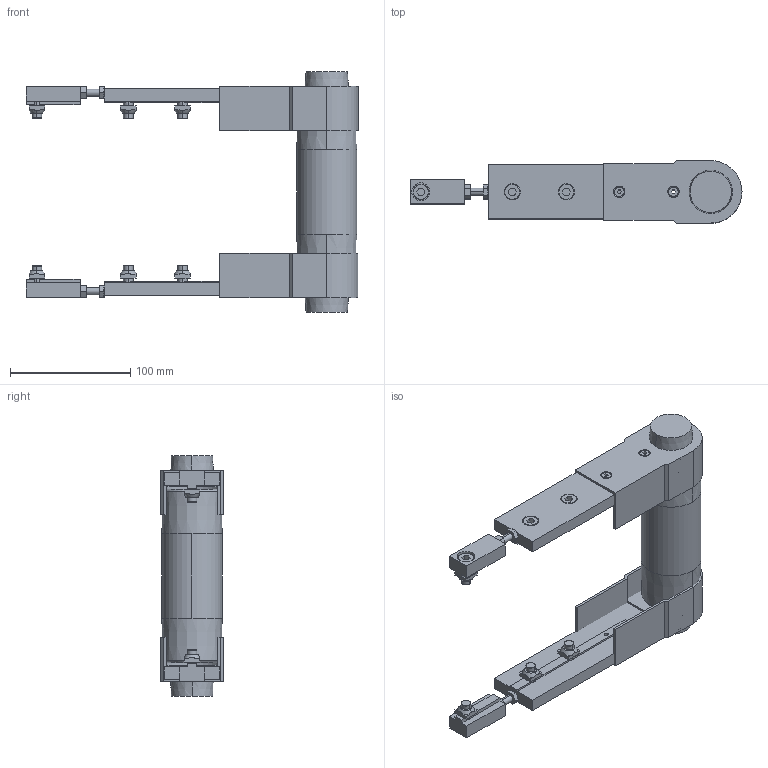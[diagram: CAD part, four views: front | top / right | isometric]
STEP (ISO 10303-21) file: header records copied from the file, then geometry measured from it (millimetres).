
FILE_DESCRIPTION (( 'STEP AP203' ), '1' );
FILE_NAME ('084.050.KIS.120.STEP', '2014-12-05T10:40:29', ( '' ), ( '' ), 'SwSTEP 2.0', 'SolidWorks 2012', '' );
FILE_SCHEMA (( 'CONFIG_CONTROL_DESIGN' ));
Length unit declared in the file: millimetre
Products named in the file (1): 084.050.KIS.120
Bounding box: 276 x 52 x 200 mm (x, y, z)
Surface area: 130441.9 mm2 (no closed solid volume)
Topology: 0 solids, 37 shells, 396 faces, 1134 edges, 772 vertices
Faces by surface type: plane 254, cylinder 74, cone 40, torus 28
Entity records: 13281 total; most frequent: CARTESIAN_POINT 2739, DIRECTION 2242, ORIENTED_EDGE 1988, EDGE_CURVE 1134, VERTEX_POINT 772, AXIS2_PLACEMENT_3D 763, LINE 716, VECTOR 716
